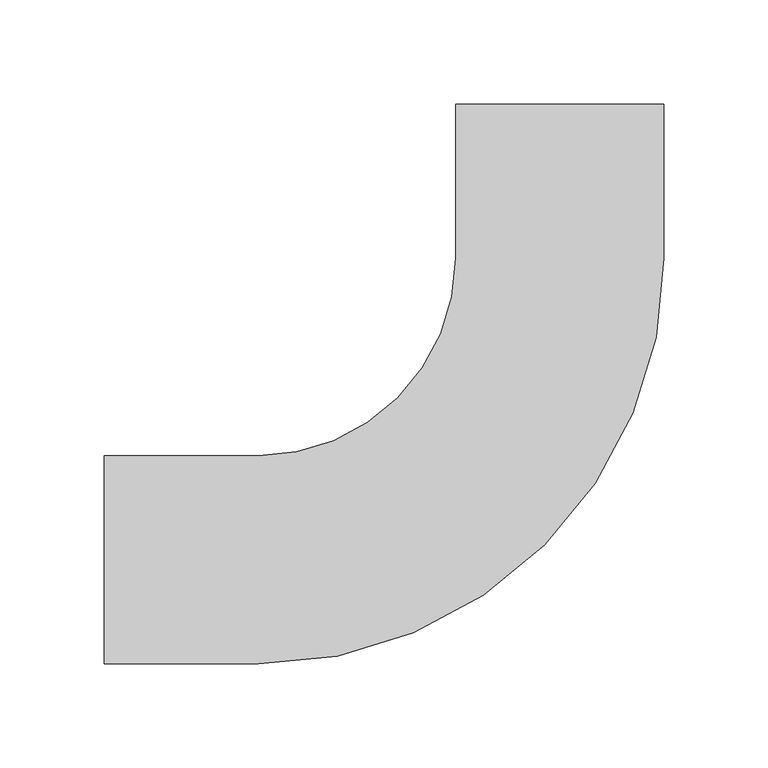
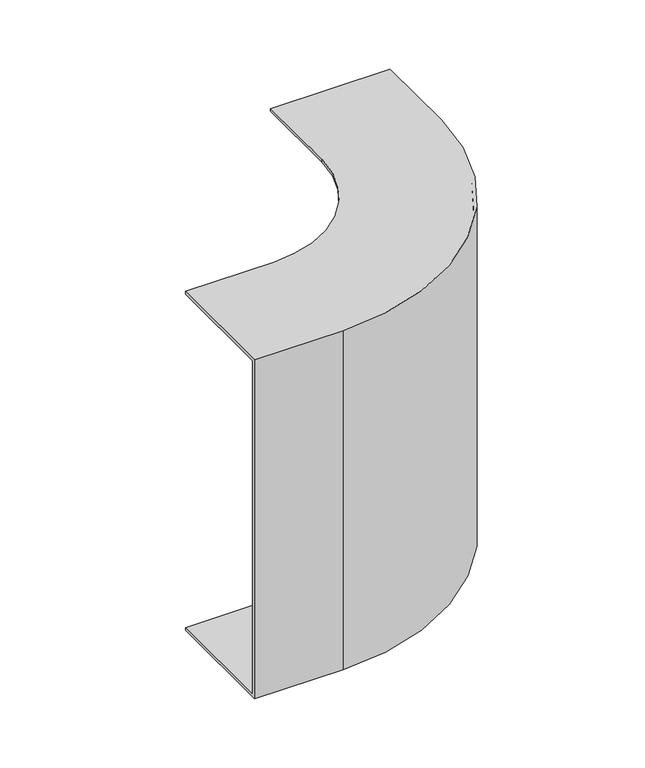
"""IFC4 building model written with IfcOpenShell, lengths in millimetres: cable carrier fitting geometry, BAKS_KK_Vertical bend EXTERNAL_LU : LUNJ_H100."""

from ifc_helpers import new_model, si_unit, frame, origin, place, context, project, spatial, polyline, circle_curve, source, transform, mapped, element, save
from ifc_brep_helpers import plane_surface, cylinder_surface, revolved_surface, advanced_brep


def cable_carrier_fitting_46bfce34(model_context):
    return source(origin(), model_context, "Body", "AdvancedBrep", [
        advanced_brep(
        [(-219.0, 50.0, 150.0), (-219.0, 50.0, 147.46), (-219.0, -47.46, 147.46), (-219.0, -47.46, -147.46), (-219.0, 50.0, -147.46), (-219.0, 50.0, -150.0), (-219.0, -50.0, -150.0), (-219.0, -50.0, 150.0), (-50.0, 219.0, 150.0), (50.0, 219.0, 150.0), (50.0, 219.0, -150.0), (-50.0, 219.0, -150.0), (-50.0, 219.0, -147.46), (47.46, 219.0, -147.46), (47.46, 219.0, 147.46), (-50.0, 219.0, 147.46), (-145.0, -50.0, 150.0), (50.0, 145.0, 150.0), (-50.0, 145.0, 150.0), (-145.0, 50.0, 150.0), (-145.0, -50.0, -150.0), (-145.0, 50.0, -150.0), (-50.0, 145.0, -150.0), (50.0, 145.0, -150.0), (-145.0, 50.0, -147.46), (-145.0, -47.46, -147.46), (47.46, 145.0, -147.46), (-50.0, 145.0, -147.46), (-145.0, -47.46, 147.46), (-145.0, 50.0, 147.46), (-50.0, 145.0, 147.46), (47.46, 145.0, 147.46)],
        [
            (0, 1),
            (1, 2),
            (2, 3),
            (3, 4),
            (4, 5),
            (5, 6),
            (6, 7),
            (7, 0),
            (8, 9),
            (9, 10),
            (10, 11),
            (11, 12),
            (12, 13),
            (13, 14),
            (14, 15),
            (15, 8),
            (7, 16),
            (16, 17, circle_curve(frame((-145.0, 145.0, 150.0), z_axis=(0.0, 0.0, 1.0), x_axis=(0.0, -1.0, 0.0)), 195.0)),
            (17, 9),
            (8, 18),
            (18, 19, circle_curve(frame((-145.0, 145.0, 150.0), z_axis=(0.0, 0.0, -1.0), x_axis=(0.0, -1.0, 0.0)), 95.0)),
            (19, 0),
            (6, 20),
            (20, 16),
            (5, 21),
            (21, 22, circle_curve(frame((-145.0, 145.0, -150.0), z_axis=(0.0, 0.0, 1.0), x_axis=(0.0, -1.0, 0.0)), 95.0)),
            (22, 11),
            (10, 23),
            (23, 20, circle_curve(frame((-145.0, 145.0, -150.0), z_axis=(0.0, 0.0, -1.0), x_axis=(0.0, -1.0, 0.0)), 195.0)),
            (4, 24),
            (24, 21),
            (3, 25),
            (25, 26, circle_curve(frame((-145.0, 145.0, -147.46), z_axis=(0.0, 0.0, 1.0), x_axis=(0.0, -1.0, 0.0)), 192.46)),
            (26, 13),
            (12, 27),
            (27, 24, circle_curve(frame((-145.0, 145.0, -147.46), z_axis=(0.0, 0.0, -1.0), x_axis=(0.0, -1.0, 0.0)), 95.0)),
            (2, 28),
            (28, 25),
            (1, 29),
            (29, 30, circle_curve(frame((-145.0, 145.0, 147.46), z_axis=(0.0, 0.0, 1.0), x_axis=(0.0, -1.0, 0.0)), 95.0)),
            (30, 15),
            (14, 31),
            (31, 28, circle_curve(frame((-145.0, 145.0, 147.46), z_axis=(0.0, 0.0, -1.0), x_axis=(0.0, -1.0, 0.0)), 192.46)),
            (19, 29),
            (23, 17),
            (27, 22),
            (31, 26),
            (18, 30),
        ],
        [
            plane_surface(frame((-219.0, 0.0, 0.0), z_axis=(-1.0, 0.0, 0.0), x_axis=(0.0, 0.0, 1.0))),
            plane_surface(frame((0.0, 219.0, 0.0), z_axis=(0.0, 1.0, 0.0), x_axis=(0.0, 0.0, 1.0))),
            plane_surface(frame((-219.0, -50.0, 150.0), z_axis=(0.0, 0.0, 1.0), x_axis=(1.0, 0.0, 0.0))),
            plane_surface(frame((-219.0, -50.0, -150.0), z_axis=(0.0, -1.0, 0.0), x_axis=(1.0, 0.0, 0.0))),
            plane_surface(frame((-219.0, 50.0, -150.0), z_axis=(0.0, 0.0, -1.0), x_axis=(1.0, 0.0, 0.0))),
            plane_surface(frame((-219.0, 50.0, -147.46), z_axis=(0.0, 1.0, 0.0), x_axis=(1.0, 0.0, 0.0))),
            plane_surface(frame((-219.0, -47.46, -147.46), z_axis=(0.0, 0.0, 1.0), x_axis=(1.0, 0.0, 0.0))),
            plane_surface(frame((-219.0, -47.46, 147.46), z_axis=(0.0, 1.0, 0.0), x_axis=(1.0, 0.0, 0.0))),
            plane_surface(frame((-219.0, 50.0, 147.46), z_axis=(0.0, 0.0, -1.0), x_axis=(1.0, 0.0, 0.0))),
            plane_surface(frame((-219.0, 50.0, 150.0), z_axis=(0.0, 1.0, 0.0), x_axis=(1.0, 0.0, 0.0))),
            cylinder_surface(frame((-145.0, 145.0, 0.0), z_axis=(0.0, 0.0, 1.0), x_axis=(0.0, -1.0, 0.0)), 195.0),
            revolved_surface(polyline([(-145.0, 50.0, -147.46), (-145.0, 50.0, -150.0)]), (-145.0, 145.0, 0.0), (0.0, 0.0, 1.0)),
            revolved_surface(polyline([(-145.0, -47.46000000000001, 147.46), (-145.0, -47.46000000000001, -147.46)]), (-145.0, 145.0, 0.0), (0.0, 0.0, 1.0)),
            revolved_surface(polyline([(-145.0, 50.0, 150.0), (-145.0, 50.0, 147.46)]), (-145.0, 145.0, 0.0), (0.0, 0.0, 1.0)),
            plane_surface(frame((50.0, 145.0, -150.0), z_axis=(1.0, 0.0, 0.0), x_axis=(0.0, 1.0, 0.0))),
            plane_surface(frame((-50.0, 145.0, -147.46), z_axis=(-1.0, 0.0, 0.0), x_axis=(0.0, 1.0, 0.0))),
            plane_surface(frame((47.46, 145.0, 147.46), z_axis=(-1.0, 0.0, 0.0), x_axis=(0.0, 1.0, 0.0))),
            plane_surface(frame((-50.0, 145.0, 150.0), z_axis=(-1.0, 0.0, 0.0), x_axis=(0.0, 1.0, 0.0))),
        ],
        [
            (0, [[1, 2, 3, 4, 5, 6, 7, 8]]),
            (1, [[9, 10, 11, 12, 13, 14, 15, 16]]),
            (2, [[-8, 17, 18, 19, -9, 20, 21, 22]]),
            (3, [[-7, 23, 24, -17]]),
            (4, [[-6, 25, 26, 27, -11, 28, 29, -23]]),
            (5, [[-5, 30, 31, -25]]),
            (6, [[-4, 32, 33, 34, -13, 35, 36, -30]]),
            (7, [[-3, 37, 38, -32]]),
            (8, [[-2, 39, 40, 41, -15, 42, 43, -37]]),
            (9, [[-1, -22, 44, -39]]),
            (10, [[-18, -24, -29, 45]]),
            (11, [[-26, -31, -36, 46]]),
            (12, [[-33, -38, -43, 47]]),
            (13, [[-40, -44, -21, 48]]),
            (14, [[-45, -28, -10, -19]]),
            (15, [[-46, -35, -12, -27]]),
            (16, [[-47, -42, -14, -34]]),
            (17, [[-48, -20, -16, -41]]),
        ],
    ),
    ])


if __name__ == "__main__":
    model = new_model("IFC4")
    model_context = context("Model", 3, world=origin())
    ifc_project = project(units=[si_unit("LENGTHUNIT", "METRE", prefix="MILLI")], contexts=[model_context])
    site = spatial("IfcSite", under=ifc_project)
    building = spatial("IfcBuilding", under=site)
    placement = place(None, origin())
    cable_carrier_fitting_shape = cable_carrier_fitting_46bfce34(model_context)
    element("IfcCableCarrierFitting", 1, ObjectType="BAKS_KK_Vertical bend EXTERNAL_LU : LUNJ_H100", at=placement, inside=building, context=model_context, shape_type="MappedRepresentation", body=[
        mapped(cable_carrier_fitting_shape, transform((0.0, 0.0, 0.0), x_axis=(1.0, 0.0, 0.0), y_axis=(0.0, 1.0, 0.0), z_axis=(0.0, 0.0, 1.0))),
    ])
    save(model, "model.ifc")
